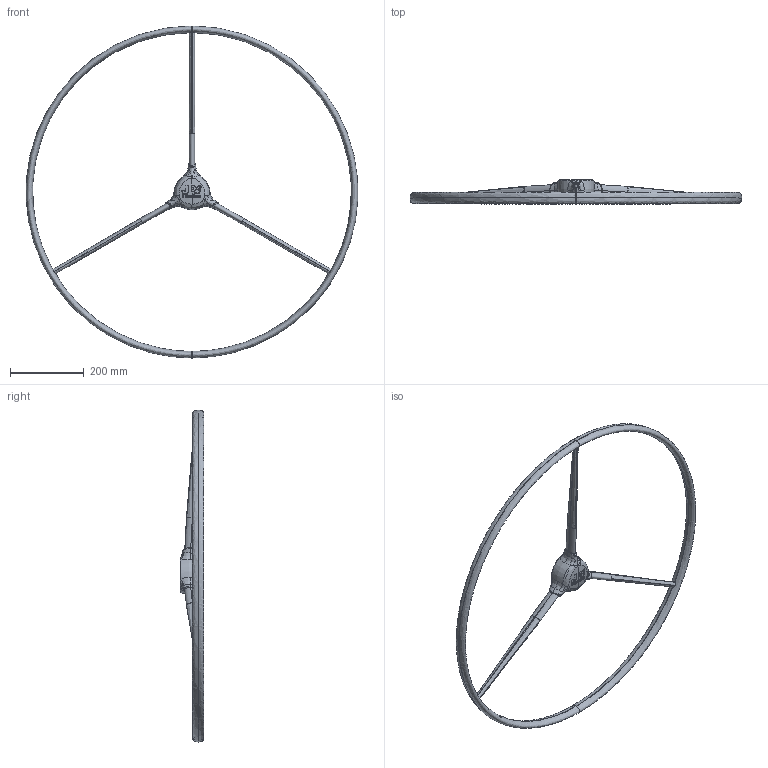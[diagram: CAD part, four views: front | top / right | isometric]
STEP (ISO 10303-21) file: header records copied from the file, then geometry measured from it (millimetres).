
FILE_DESCRIPTION(/* description */ (''),/* implementation_level */ '2;1');
FILE_NAME(/* name */ 'Roue_Titanium_900',/* time_stamp */ '2010-10-04T10:57:27+02:00',/* author */ (''),/* organization */ (''),/* preprocessor_version */ 'ST-DEVELOPER v10',/* originating_system */ '',/* authorisation */ '');
FILE_SCHEMA (('CONFIG_CONTROL_DESIGN'));
Length unit declared in the file: millimetre
Products named in the file (1): 1
Bounding box: 899.22 x 64.5 x 900 mm (x, y, z)
Volume: 508631.3 mm3; surface area: 622064.4 mm2
Topology: 6 solids, 21 shells, 215 faces, 639 edges, 451 vertices
Faces by surface type: bspline 215
Entity records: 27795 total; most frequent: CARTESIAN_POINT 24395, ORIENTED_EDGE 1163, EDGE_CURVE 637, VERTEX_POINT 451, B_SPLINE_CURVE_WITH_KNOTS 272, EDGE_LOOP 252, ADVANCED_FACE 215, FACE_OUTER_BOUND 215
